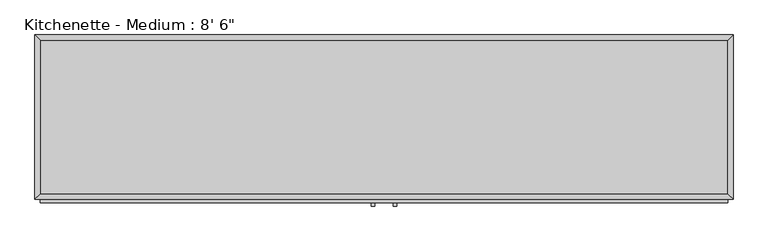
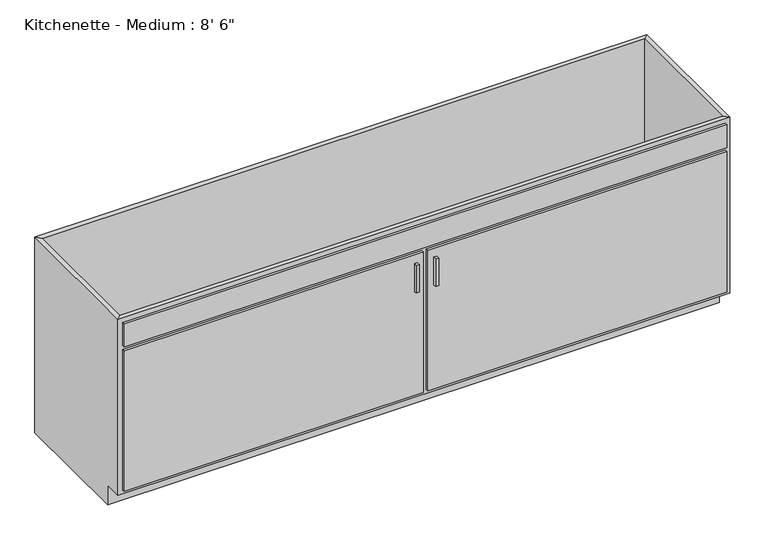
"""IFC4 building model written with IfcOpenShell, lengths in millimetres: proxy geometry."""

from ifc_helpers import new_model, si_unit, frame, origin, place, context, project, spatial, polyline, outline, extrude, faceted_brep, source, transform, mapped, element, save


def proxy_a6516e2b(model_context):
    return source(origin(), model_context, "Body", "SolidModel", [
        faceted_brep([(1295.0877049, -590.55, 876.3), (1295.0877049, -590.55, 88.9), (-1257.6122951, -590.55, 88.9), (-1257.6122951, -590.55, 876.3), (-1276.6622951, -609.6, 876.3), (1314.1377049, -609.6, 876.3), (-1276.6622951, -609.6, 88.9), (1314.1377049, -609.6, 88.9), (-1257.6122951, -533.4, 88.9), (-1257.6122951, -19.05, 88.9), (-1257.6122951, -19.05, 876.3), (-1276.6622951, 0.0, 876.3), (-1276.6622951, 0.0, 0.0), (-1276.6622951, -533.4, 0.0), (-1276.6622951, -533.4, 88.9), (1295.0877049, -19.05, 88.9), (1295.0877049, -19.05, 876.3), (1314.1377049, 0.0, 876.3), (1314.1377049, 0.0, 0.0), (1295.0877049, -533.4, 88.9), (1314.1377049, -533.4, 88.9), (1314.1377049, -533.4, 0.0)], [[[0, 1, 2, 3]], [[0, 3, 4, 5]], [[5, 4, 6, 7]], [[2, 1, 7, 6]], [[3, 2, 8, 9, 10]], [[4, 3, 10, 11]], [[6, 4, 11, 12, 13, 14]], [[2, 6, 14, 8]], [[10, 9, 15, 16]], [[11, 10, 16, 17]], [[12, 11, 17, 18]], [[1, 0, 16, 15, 19]], [[0, 5, 17, 16]], [[5, 7, 20, 21, 18, 17]], [[7, 1, 19, 20]], [[8, 19, 15, 9]], [[18, 21, 13, 12]], [[13, 21, 20, 19, 8, 14]]]),
        extrude(outline(polyline([(-16.1872951, -635.0), (-28.8872951, -635.0), (-28.8872951, -622.3), (-16.1872951, -622.3), (-16.1872951, -635.0)])), frame((0.0, 0.0, 573.769895), z_axis=(0.0, 0.0, 1.0), x_axis=(1.0, 0.0, 0.0)), (0.0, 0.0, 1.0), 124.730105),
        extrude(outline(polyline([(66.3627049, -635.0), (53.6627049, -635.0), (53.6627049, -622.3), (66.3627049, -622.3), (66.3627049, -635.0)])), frame((0.0, 0.0, 573.769895), z_axis=(0.0, 0.0, 1.0), x_axis=(1.0, 0.0, 0.0)), (0.0, 0.0, 1.0), 124.730105),
        extrude(outline(polyline([(1295.0877049, -19.05), (1295.0877049, -590.55), (-1257.6122951, -590.55), (-1257.6122951, -19.05), (1295.0877049, -19.05)])), frame((0.0, 0.0, 88.9), z_axis=(0.0, 0.0, 1.0), x_axis=(1.0, 0.0, 0.0)), (0.0, 0.0, 1.0), 19.05),
        extrude(outline(polyline([(9.2127049, -622.3), (-1257.6122951, -622.3), (-1257.6122951, -609.6), (9.2127049, -609.6), (9.2127049, -622.3)])), frame((0.0, 0.0, 107.95), z_axis=(0.0, 0.0, 1.0), x_axis=(1.0, 0.0, 0.0)), (0.0, 0.0, 1.0), 628.65),
        extrude(outline(polyline([(1295.0877049, -622.3), (28.2627049, -622.3), (28.2627049, -609.6), (1295.0877049, -609.6), (1295.0877049, -622.3)])), frame((0.0, 0.0, 107.95), z_axis=(0.0, 0.0, 1.0), x_axis=(1.0, 0.0, 0.0)), (0.0, 0.0, 1.0), 628.65),
        extrude(outline(polyline([(1295.0877049, -622.3), (-1257.6122951, -622.3), (-1257.6122951, -609.6), (1295.0877049, -609.6), (1295.0877049, -622.3)])), frame((0.0, 0.0, 755.65), z_axis=(0.0, 0.0, 1.0), x_axis=(1.0, 0.0, 0.0)), (0.0, 0.0, 1.0), 101.6),
    ])


if __name__ == "__main__":
    model = new_model("IFC4")
    model_context = context("Model", 3, world=origin())
    ifc_project = project(units=[si_unit("LENGTHUNIT", "METRE", prefix="MILLI")], contexts=[model_context])
    site = spatial("IfcSite", under=ifc_project)
    building = spatial("IfcBuilding", under=site)
    placement = place(None, origin())
    proxy_shape = proxy_a6516e2b(model_context)
    element("IfcBuildingElementProxy", 1, Name="Kitchenette - Medium : 8' 6\"", ObjectType="Kitchenette - Medium : 8' 6\"", at=placement, inside=building, context=model_context, shape_type="MappedRepresentation", body=[
        mapped(proxy_shape, transform((0.0, 0.0, 0.0), x_axis=(1.0, 0.0, 0.0), y_axis=(0.0, 1.0, 0.0), z_axis=(0.0, 0.0, 1.0))),
    ])
    save(model, "model.ifc")
